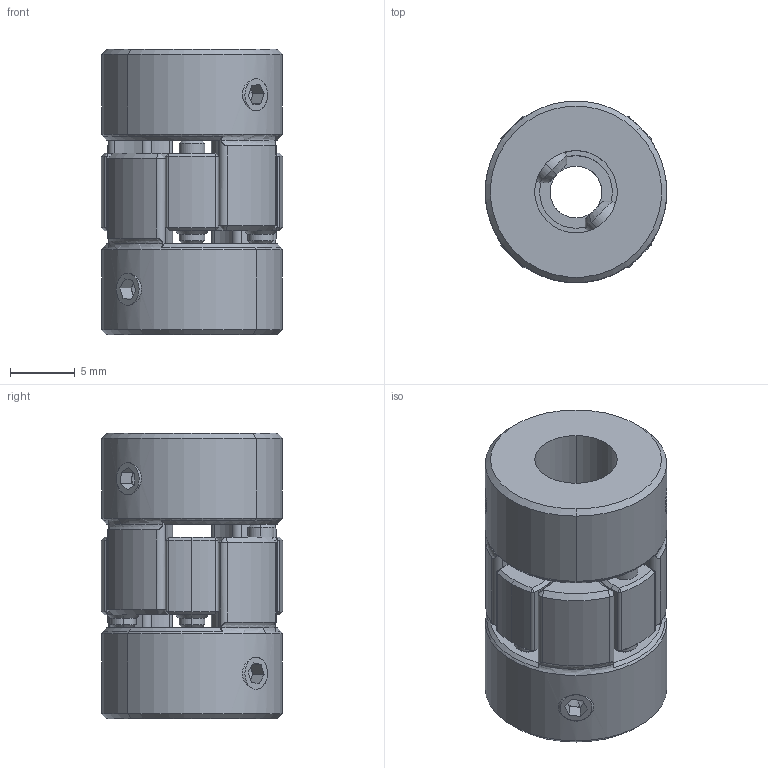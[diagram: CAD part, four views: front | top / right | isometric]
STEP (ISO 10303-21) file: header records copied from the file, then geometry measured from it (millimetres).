
FILE_DESCRIPTION (( 'STEP AP203' ), '1' );
FILE_NAME ('LF-D-D14L22-4-6.35.STEP', '2021-10-26T05:39:43', ( '' ), ( '' ), 'SwSTEP 2.0', 'SolidWorks 2018', '' );
FILE_SCHEMA (( 'CONFIG_CONTROL_DESIGN' ));
Length unit declared in the file: millimetre
Products named in the file (1): LF-D-D14L22-4-6.35
Bounding box: 14 x 14 x 22 mm (x, y, z)
Volume: 2664.9 mm3; surface area: 2162 mm2
Topology: 1 solids, 1 shells, 353 faces, 887 edges, 512 vertices
Faces by surface type: cone 164, cylinder 115, plane 66, torus 8
Entity records: 10853 total; most frequent: CARTESIAN_POINT 2238, DIRECTION 1939, ORIENTED_EDGE 1726, EDGE_CURVE 863, AXIS2_PLACEMENT_3D 780, VERTEX_POINT 512, CIRCLE 426, EDGE_LOOP 383
